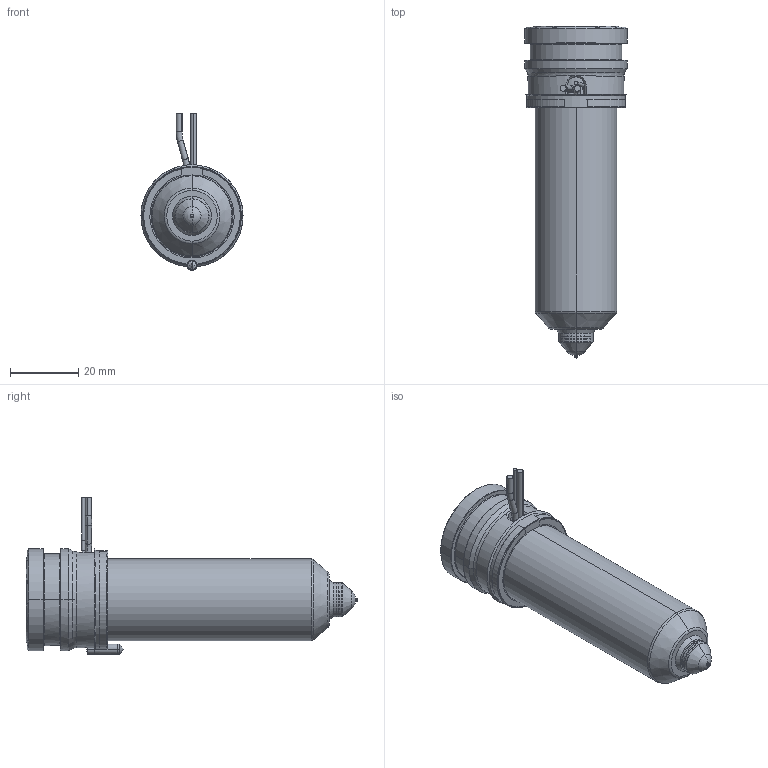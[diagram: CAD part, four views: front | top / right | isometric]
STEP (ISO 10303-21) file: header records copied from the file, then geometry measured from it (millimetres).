
FILE_DESCRIPTION((''),'2;1');
FILE_NAME('MPN-10-29-VX10-076-A','2026-02-05T12:40:28',('UPTIO'),('Thermoplay S.p.A.'),'CREO PARAMETRIC BY PTC INC, 2023494','CREO PARAMETRIC BY PTC INC, 2023494','');
FILE_SCHEMA(('CONFIG_CONTROL_DESIGN','SHAPE_APPEARANCE_LAYERS_GROUPS'));
Length unit declared in the file: millimetre
Products named in the file (1): MPN-10-29-VX10-076-A
Bounding box: 30 x 97.5 x 46 mm (x, y, z)
Volume: 30909.1 mm3; surface area: 30725.3 mm2
Topology: 2 solids, 3 shells, 557 faces, 1459 edges, 901 vertices
Faces by surface type: cylinder 182, plane 144, bspline 76, torus 72, cone 70, sphere 9, extrusion 4
Entity records: 28640 total; most frequent: CARTESIAN_POINT 12133, ORIENTED_EDGE 2906, DIRECTION 2711, EDGE_CURVE 1453, AXIS2_PLACEMENT_3D 1078, VERTEX_POINT 901, CIRCLE 600, EDGE_LOOP 586
